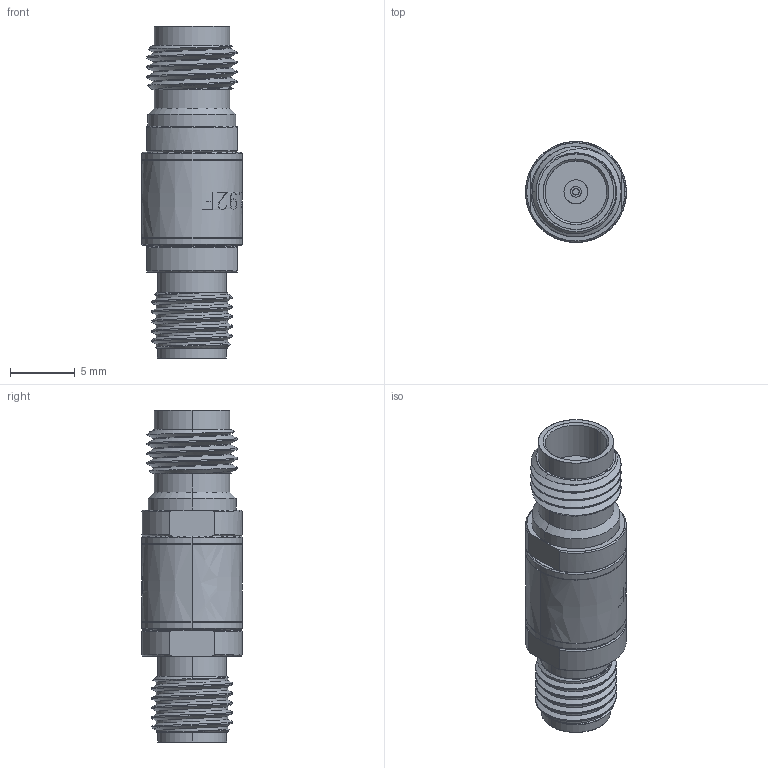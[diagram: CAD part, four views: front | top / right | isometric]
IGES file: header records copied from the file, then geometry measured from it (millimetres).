
Start section: SolidWorks IGES file using analytic representation for surfaces
Global section: file name: C:\Users\sculpepper\Desktop\2228000K001-820-C\2228000K001-820-Cigs.IGS; native system: SolidWorks 2019; preprocessor: SolidWorks 2019; author: sculpepper; date: 201029.154531; units: inch
Bounding box: 7.81 x 7.81 x 25.68 mm (x, y, z)
Surface area: 861.3 mm2 (no closed solid volume)
Topology: 0 solids, 0 shells, 386 faces, 3726 edges, 3726 vertices
Faces by surface type: bspline 272, revolution 114
